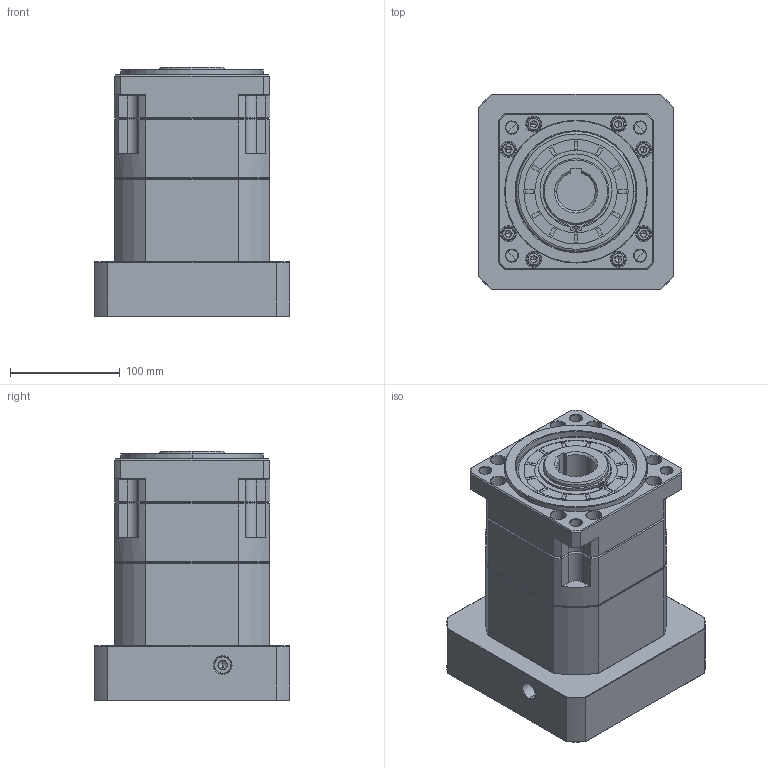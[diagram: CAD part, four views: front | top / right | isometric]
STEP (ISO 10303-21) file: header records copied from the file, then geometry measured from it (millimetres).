
FILE_DESCRIPTION (( 'STEP AP214' ), '1' );
FILE_NAME ('ZB142A-K35-L1-42-114.3-200-M12.step', '2023-03-18T06:15:38', ( '' ), ( '' ), 'SwSTEP 2.0', 'SolidWorks 2016', '' );
FILE_SCHEMA (( 'AUTOMOTIVE_DESIGN' ));
Length unit declared in the file: millimetre
Products named in the file (1): ZB142A-K35-L1-42-114.3-200-M12
Bounding box: 178 x 178 x 227.2 mm (x, y, z)
Volume: 3937169.6 mm3; surface area: 367746.4 mm2
Topology: 6 solids, 6 shells, 2130 faces, 5492 edges, 3468 vertices
Faces by surface type: plane 1006, cylinder 415, cone 385, bspline 304, torus 20
Entity records: 110890 total; most frequent: CARTESIAN_POINT 37975, ORIENTED_EDGE 10928, DIRECTION 9199, EDGE_CURVE 5464, VERTEX_POINT 3468, LINE 3463, VECTOR 3463, AXIS2_PLACEMENT_3D 2868
